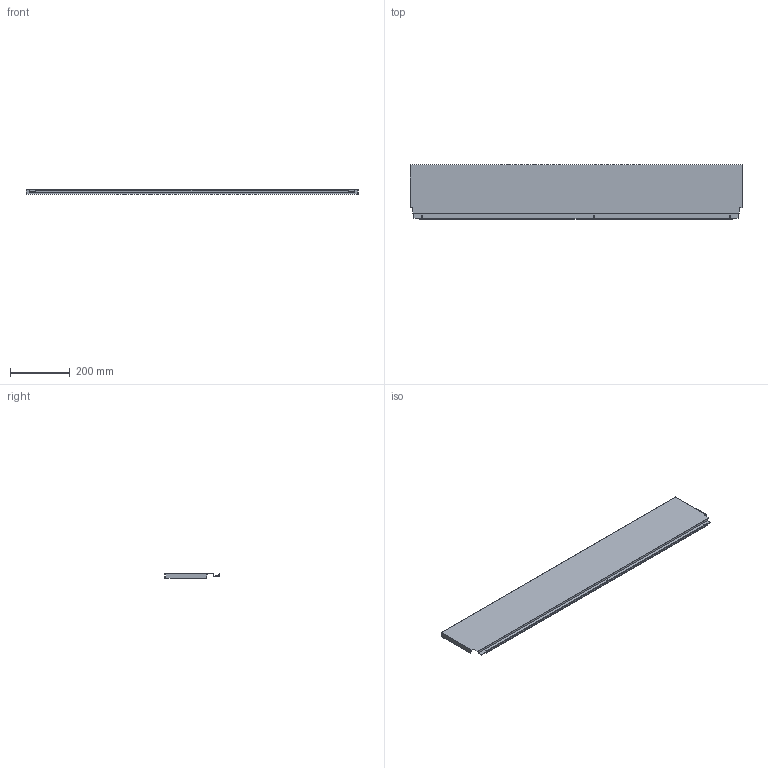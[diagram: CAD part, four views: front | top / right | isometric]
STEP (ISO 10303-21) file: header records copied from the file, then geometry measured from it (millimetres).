
FILE_DESCRIPTION (( 'STEP AP214' ), '1' );
FILE_NAME ('_DWD_XP Stahlrückwand_H182_KAB1200_S19.step', '2010-07-08T12:58:13', ( 'grass' ), ( '' ), 'SwSTEP 2.0', 'SolidWorks 2010', '' );
FILE_SCHEMA (( 'AUTOMOTIVE_DESIGN' ));
Length unit declared in the file: millimetre
Products named in the file (1): _DWD_XP Stahlrückwand_H182_KAB1200_S19
Bounding box: 1111 x 182.49 x 16 mm (x, y, z)
Volume: 207898.4 mm3; surface area: 479998.5 mm2
Topology: 1 solids, 1 shells, 46 faces, 132 edges, 88 vertices
Faces by surface type: plane 40, cylinder 6
Entity records: 1534 total; most frequent: CARTESIAN_POINT 267, ORIENTED_EDGE 264, DIRECTION 238, EDGE_CURVE 132, LINE 120, VECTOR 120, VERTEX_POINT 88, AXIS2_PLACEMENT_3D 59
